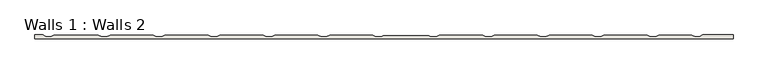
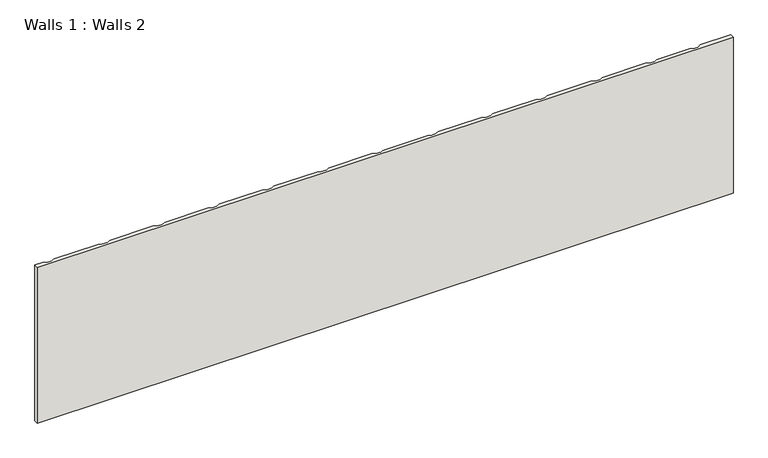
"""IFC4 building model written with IfcOpenShell, lengths in millimetres: wall geometry, Walls 1 : Walls 2."""

from ifc_helpers import new_model, si_unit, frame, origin, place, context, project, spatial, polyline, outline, extrude, source, transform, mapped, element, save


def walls_1_walls_2_f8d973cd(model_context):
    return source(origin(), model_context, "Body", "SweptSolid", [
        extrude(outline(polyline([(5449.3164082, 8493.1746256), (5449.3164082, 8570.6746256), (5605.2596593, 8570.6746256), (5673.5985761, 8534.4951991), (5754.0803271, 8534.4951991), (5815.3605819, 8566.9376917), (6687.4337098, 8566.9376917), (6748.3750588, 8534.6746246), (6853.3750683, 8534.6746246), (6914.3164082, 8566.9376917), (7756.8183043, 8566.9376917), (7817.7596533, 8534.6746246), (7922.7596628, 8534.6746246), (7983.7010027, 8566.9376917), (8827.4337098, 8566.9376917), (8888.3750588, 8534.6746246), (8993.3750683, 8534.6746246), (9054.3164082, 8566.9376917), (9897.4337098, 8566.9376917), (9958.3750588, 8534.6746246), (10063.3750683, 8534.6746246), (10124.3164082, 8566.9376917), (10967.4337098, 8566.9376917), (11028.3750588, 8534.6746246), (11133.3750683, 8534.6746246), (11194.3164082, 8566.9376917), (12037.4337098, 8566.9376917), (12098.3750588, 8534.6746246), (12203.3750683, 8534.6746246), (12243.389439, 8555.8587063), (13128.3606791, 8555.8587063), (13168.3750498, 8534.6746246), (13273.3750593, 8534.6746246), (13334.3164082, 8566.9376917), (14177.4337098, 8566.9376917), (14238.3750498, 8534.6746246), (14343.3750593, 8534.6746246), (14404.3164082, 8566.9376917), (15247.4337098, 8566.9376917), (15308.3750498, 8534.6746246), (15413.3750593, 8534.6746246), (15474.3164082, 8566.9376917), (16318.0491154, 8566.9376917), (16378.9904553, 8534.6746246), (16483.9904648, 8534.6746246), (16544.9318138, 8566.9376917), (17387.4337098, 8566.9376917), (17448.3750498, 8534.6746246), (17553.3750593, 8534.6746246), (17614.3164082, 8566.9376917), (18259.5068378, 8566.9376917), (18320.7870926, 8534.4951991), (18401.2688436, 8534.4951991), (18469.6077604, 8570.6746256), (19063.5164082, 8570.6746256), (19063.5164082, 8493.1746256), (5449.3164082, 8493.1746256)])), frame((0.0, 0.0, 336.5252864), z_axis=(0.0, 0.0, 1.0), x_axis=(1.0, 0.0, 0.0)), (0.0, 0.0, 1.0), 3224.1299296),
    ])


if __name__ == "__main__":
    model = new_model("IFC4")
    model_context = context("Model", 3, world=origin())
    ifc_project = project(units=[si_unit("LENGTHUNIT", "METRE", prefix="MILLI")], contexts=[model_context])
    site = spatial("IfcSite", under=ifc_project)
    building = spatial("IfcBuilding", under=site)
    placement = place(None, origin())
    walls_1_walls_2_shape = walls_1_walls_2_f8d973cd(model_context)
    element("IfcWall", 1, ObjectType="Walls 1 : Walls 2", at=placement, inside=building, context=model_context, shape_type="MappedRepresentation", body=[
        mapped(walls_1_walls_2_shape, transform((0.0, 0.0, 0.0), x_axis=(1.0, 0.0, 0.0), y_axis=(0.0, 1.0, 0.0), z_axis=(0.0, 0.0, 1.0))),
    ])
    save(model, "model.ifc")
